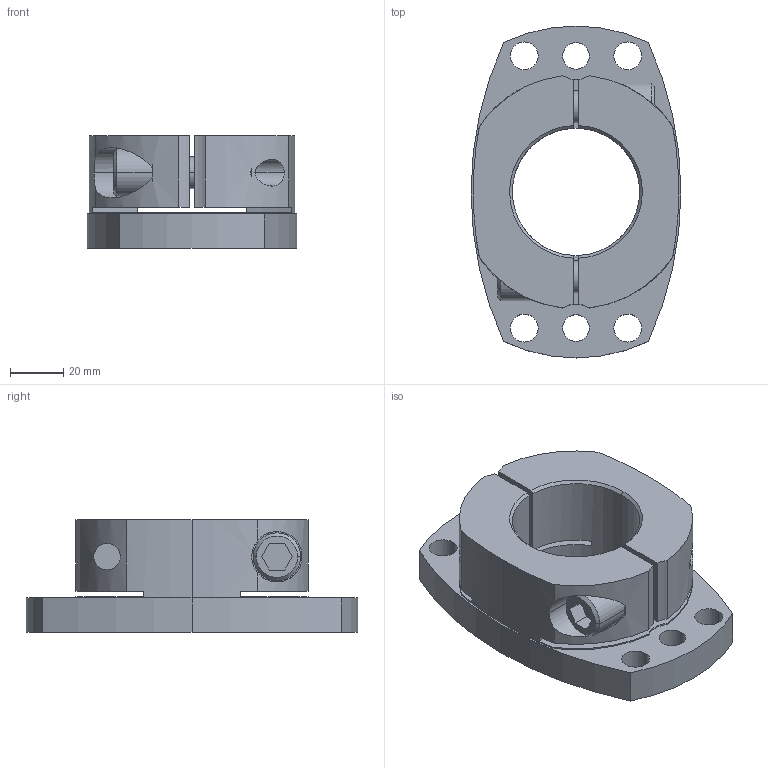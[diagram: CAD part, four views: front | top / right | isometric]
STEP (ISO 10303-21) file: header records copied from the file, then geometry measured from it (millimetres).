
FILE_DESCRIPTION((''),'2;1');
FILE_NAME('SHDB-125B-48.stp','2026-01-28T08:51:00',(''),(''),'AutoCAD STEP 2000i','AutoCAD 2000i',', , ');
FILE_SCHEMA(('CONFIG_CONTROL_DESIGN'));
Length unit declared in the file: millimetre
Products named in the file (2): SHDB-125B-42; 忣兜1
Assembly tree (1 placements, depth 2):
  SHDB-125B-42
    忣兜1
Bounding box: 79 x 125 x 42.5 mm (x, y, z)
Volume: 183911.4 mm3; surface area: 43882.1 mm2
Topology: 1 solids, 1 shells, 108 faces, 286 edges, 188 vertices
Faces by surface type: cylinder 62, plane 36, cone 10
Entity records: 3825 total; most frequent: CARTESIAN_POINT 904, DIRECTION 624, ORIENTED_EDGE 572, EDGE_CURVE 286, AXIS2_PLACEMENT_3D 248, VERTEX_POINT 188, CIRCLE 138, EDGE_LOOP 134
